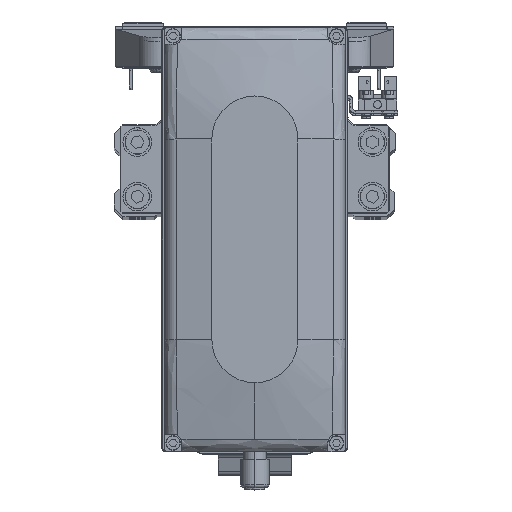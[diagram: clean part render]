
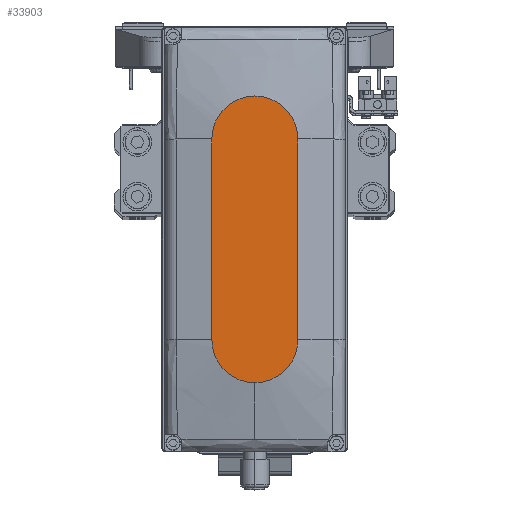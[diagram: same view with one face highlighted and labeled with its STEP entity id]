
A CAD part, top view. The second image highlights one B-rep face of the part: STEP entity #33903.
In plain terms, the highlighted planar face has unit normal (0, 0, 1).
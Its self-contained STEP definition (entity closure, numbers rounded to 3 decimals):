
#307 = CARTESIAN_POINT ( 'NONE',  ( 0., 0., 35. ) ) ;
#740 = DIRECTION ( 'NONE',  ( -1., 0., 0. ) ) ;
#1246 = ORIENTED_EDGE ( 'NONE', *, *, #15042, .T. ) ;
#1297 = DIRECTION ( 'NONE',  ( 1., 0., 0. ) ) ;
#1613 = VECTOR ( 'NONE', #3436, 1000. ) ;
#2849 = DIRECTION ( 'NONE',  ( 1., 0., 0. ) ) ;
#3170 = VERTEX_POINT ( 'NONE', #30658 ) ;
#3232 = ORIENTED_EDGE ( 'NONE', *, *, #11976, .T. ) ;
#3262 = CARTESIAN_POINT ( 'NONE',  ( 50., 0., 35. ) ) ;
#3436 = DIRECTION ( 'NONE',  ( 1., 0., 0. ) ) ;
#4359 = CIRCLE ( 'NONE', #30113, 15. ) ;
#4671 = AXIS2_PLACEMENT_3D ( 'NONE', #18817, #32866, #1297 ) ;
#6680 = DIRECTION ( 'NONE',  ( 0., 0., 1. ) ) ;
#7095 = EDGE_CURVE ( 'NONE', #11352, #41339, #18240, .T. ) ;
#7110 = VERTEX_POINT ( 'NONE', #28841 ) ;
#7353 = EDGE_CURVE ( 'NONE', #41339, #7110, #4359, .T. ) ;
#8943 = EDGE_CURVE ( 'NONE', #7110, #3170, #20964, .T. ) ;
#9111 = AXIS2_PLACEMENT_3D ( 'NONE', #307, #14362, #28430 ) ;
#10040 = ORIENTED_EDGE ( 'NONE', *, *, #7095, .T. ) ;
#11352 = VERTEX_POINT ( 'NONE', #33709 ) ;
#11976 = EDGE_CURVE ( 'NONE', #3170, #20103, #24555, .T. ) ;
#14362 = DIRECTION ( 'NONE',  ( 0., 0., 1. ) ) ;
#15042 = EDGE_CURVE ( 'NONE', #20103, #11352, #17529, .T. ) ;
#16953 = EDGE_LOOP ( 'NONE', ( #10040, #36905, #45250, #3232, #1246 ) ) ;
#17529 = CIRCLE ( 'NONE', #43281, 15. ) ;
#17808 = FACE_OUTER_BOUND ( 'NONE', #16953, .T. ) ;
#18240 = LINE ( 'NONE', #32296, #35242 ) ;
#18817 = CARTESIAN_POINT ( 'NONE',  ( 35., 0., 35. ) ) ;
#20103 = VERTEX_POINT ( 'NONE', #3262 ) ;
#20375 = CARTESIAN_POINT ( 'NONE',  ( 35., 0., 35. ) ) ;
#20738 = DIRECTION ( 'NONE',  ( 1., 0., 0. ) ) ;
#20964 = LINE ( 'NONE', #35008, #1613 ) ;
#24555 = CIRCLE ( 'NONE', #4671, 15. ) ;
#28430 = DIRECTION ( 'NONE',  ( 1., 0., 0. ) ) ;
#28841 = CARTESIAN_POINT ( 'NONE',  ( -35., -15., 35. ) ) ;
#30113 = AXIS2_PLACEMENT_3D ( 'NONE', #38246, #6680, #20738 ) ;
#30658 = CARTESIAN_POINT ( 'NONE',  ( 35., -15., 35. ) ) ;
#31868 = PLANE ( 'NONE',  #9111 ) ;
#32296 = CARTESIAN_POINT ( 'NONE',  ( -35., 15., 35. ) ) ;
#32866 = DIRECTION ( 'NONE',  ( 0., 0., 1. ) ) ;
#33709 = CARTESIAN_POINT ( 'NONE',  ( 35., 15., 35. ) ) ;
#33903 = ADVANCED_FACE ( 'NONE', ( #17808 ), #31868, .T. ) ;
#34412 = DIRECTION ( 'NONE',  ( 0., 0., 1. ) ) ;
#35008 = CARTESIAN_POINT ( 'NONE',  ( -35., -15., 35. ) ) ;
#35242 = VECTOR ( 'NONE', #740, 1000. ) ;
#36905 = ORIENTED_EDGE ( 'NONE', *, *, #7353, .T. ) ;
#38246 = CARTESIAN_POINT ( 'NONE',  ( -35., 0., 35. ) ) ;
#41339 = VERTEX_POINT ( 'NONE', #45001 ) ;
#43281 = AXIS2_PLACEMENT_3D ( 'NONE', #20375, #34412, #2849 ) ;
#45001 = CARTESIAN_POINT ( 'NONE',  ( -35., 15., 35. ) ) ;
#45250 = ORIENTED_EDGE ( 'NONE', *, *, #8943, .T. ) ;
